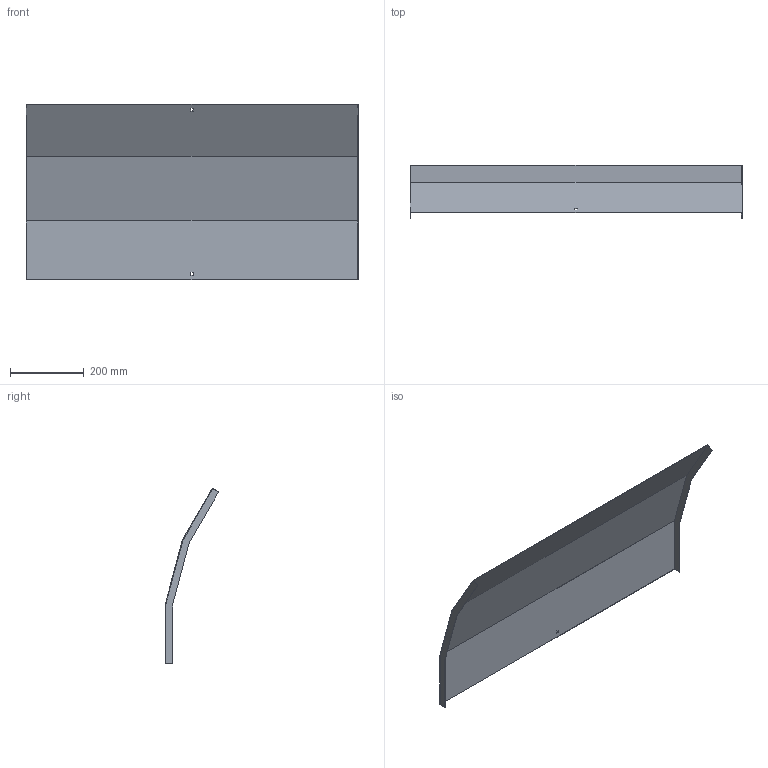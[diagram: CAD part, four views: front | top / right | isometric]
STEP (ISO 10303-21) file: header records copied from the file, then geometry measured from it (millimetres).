
FILE_DESCRIPTION (( 'STEP AP214' ), '1' );
FILE_NAME ('A2_35N3C900.step', '2025-02-21T10:30:32', ( '' ), ( '' ), 'SwSTEP 2.0', 'SolidWorks 2023', '' );
FILE_SCHEMA (( 'AUTOMOTIVE_DESIGN' ));
Length unit declared in the file: millimetre
Products named in the file (1): A2_35N3C900
Bounding box: 903 x 145.29 x 477.6 mm (x, y, z)
Volume: 711775.7 mm3; surface area: 953433.5 mm2
Topology: 1 solids, 1 shells, 26 faces, 72 edges, 48 vertices
Faces by surface type: plane 26
Entity records: 847 total; most frequent: CARTESIAN_POINT 147, ORIENTED_EDGE 144, DIRECTION 126, LINE 72, VECTOR 72, EDGE_CURVE 72, VERTEX_POINT 48, EDGE_LOOP 30
